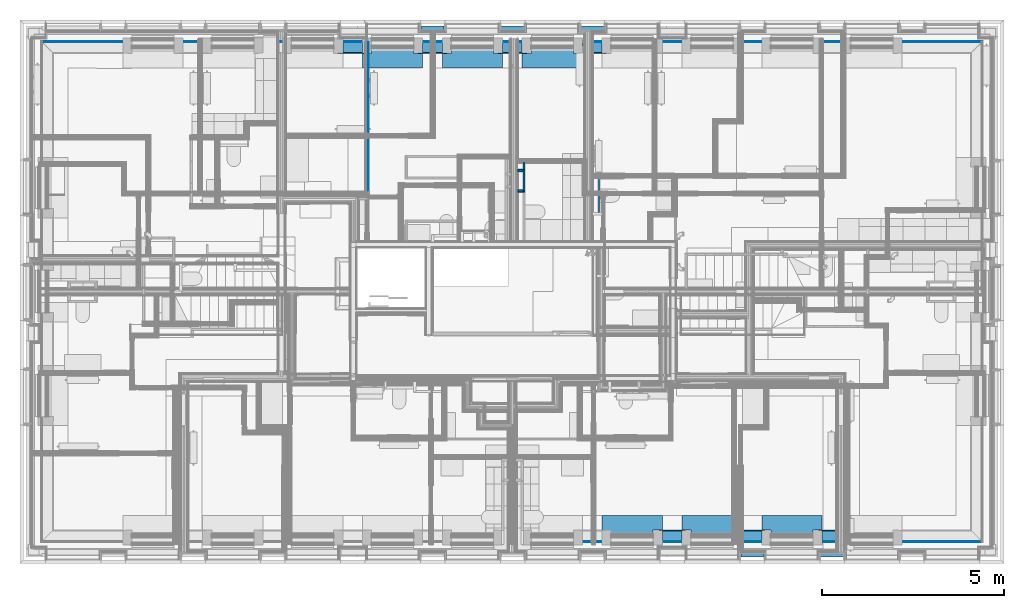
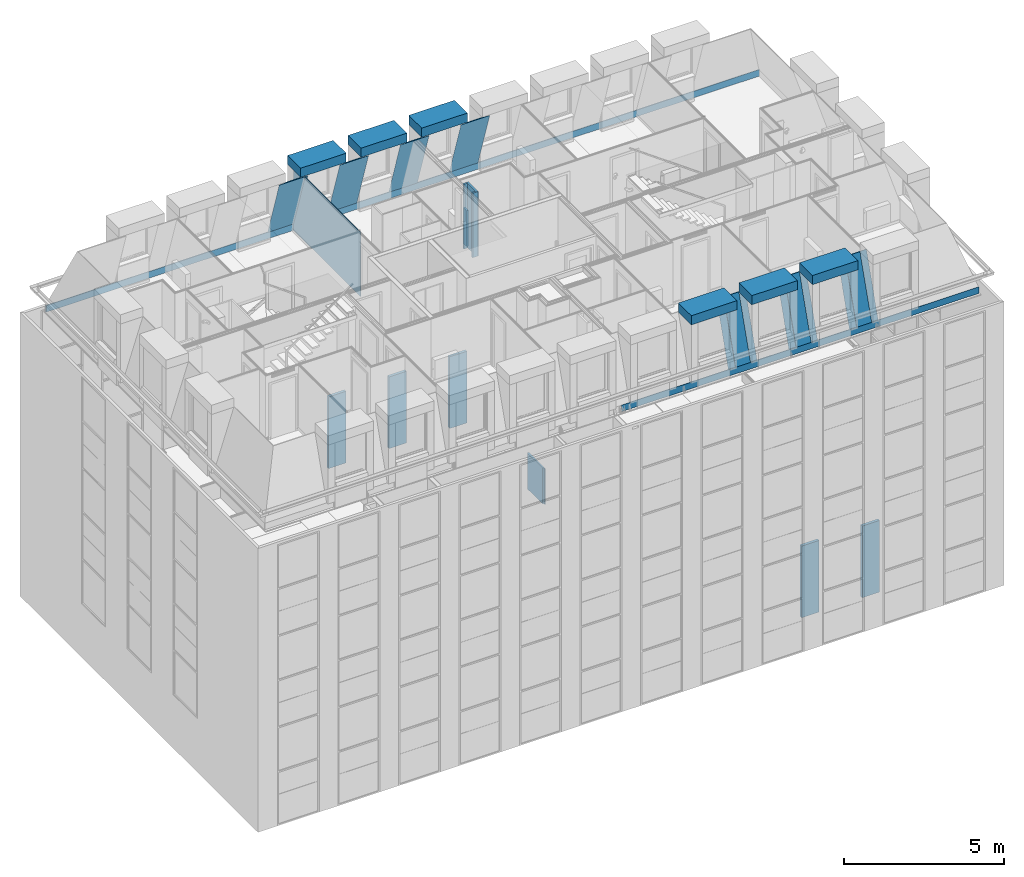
# One storey, part 5 of 169: 34 walls.
"""IFC2X3 building model written with IfcOpenShell, lengths in metres."""

from ifc_helpers import new_model, entity, si_unit, converted_unit, derived_unit, money_unit, direction, frame, frame_2d, origin_with_axes, place, context, subcontext, project, spatial, polyline, rectangle, outline, extrude, material, layer, layer_set, layer_usage, type_object, element, save


model = new_model("IFC2X3")

# Units and contexts
model_context = context("Model", 3, precision=1e-05, world=origin_with_axes(), true_north=direction((0.0, 1.0)))
body_context = subcontext(model_context, "Body", "Model", "MODEL_VIEW", scale=1.0)
ifc_project = project(units=[si_unit("LENGTHUNIT", "METRE"), si_unit("AREAUNIT", "SQUARE_METRE"), si_unit("VOLUMEUNIT", "CUBIC_METRE"), si_unit("ABSORBEDDOSEUNIT", "GRAY"), si_unit("AMOUNTOFSUBSTANCEUNIT", "MOLE"), si_unit("DOSEEQUIVALENTUNIT", "SIEVERT"), si_unit("ELECTRICCAPACITANCEUNIT", "FARAD"), si_unit("ELECTRICCHARGEUNIT", "COULOMB"), si_unit("ELECTRICCONDUCTANCEUNIT", "SIEMENS"), si_unit("ELECTRICCURRENTUNIT", "AMPERE"), si_unit("ELECTRICRESISTANCEUNIT", "OHM"), si_unit("ELECTRICVOLTAGEUNIT", "VOLT"), si_unit("ENERGYUNIT", "JOULE"), si_unit("FORCEUNIT", "NEWTON"), si_unit("FREQUENCYUNIT", "HERTZ"), si_unit("ILLUMINANCEUNIT", "LUX"), si_unit("INDUCTANCEUNIT", "HENRY"), si_unit("LUMINOUSFLUXUNIT", "LUMEN"), si_unit("LUMINOUSINTENSITYUNIT", "CANDELA"), si_unit("MAGNETICFLUXDENSITYUNIT", "TESLA"), si_unit("MAGNETICFLUXUNIT", "WEBER"), si_unit("MASSUNIT", "GRAM"), converted_unit("PLANEANGLEUNIT", "degree", entity("IfcReal", 0.0174532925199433), si_unit("PLANEANGLEUNIT", "RADIAN"), dimensions=[0, 0, 0, 0, 0, 0, 0]), si_unit("POWERUNIT", "WATT"), si_unit("PRESSUREUNIT", "PASCAL"), si_unit("RADIOACTIVITYUNIT", "BECQUEREL"), si_unit("SOLIDANGLEUNIT", "STERADIAN"), si_unit("THERMODYNAMICTEMPERATUREUNIT", "KELVIN"), si_unit("TIMEUNIT", "SECOND"), derived_unit("ACCELERATIONUNIT", [(si_unit("LENGTHUNIT", "METRE"), 1), (si_unit("TIMEUNIT", "SECOND"), -2)]), derived_unit("ANGULARVELOCITYUNIT", [(converted_unit("PLANEANGLEUNIT", "degree", entity("IfcReal", 0.0174532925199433), si_unit("PLANEANGLEUNIT", "RADIAN"), dimensions=[0, 0, 0, 0, 0, 0, 0]), 1), (si_unit("TIMEUNIT", "SECOND"), -1)]), derived_unit("CURVATUREUNIT", [(converted_unit("PLANEANGLEUNIT", "degree", entity("IfcReal", 0.0174532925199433), si_unit("PLANEANGLEUNIT", "RADIAN"), dimensions=[0, 0, 0, 0, 0, 0, 0]), 1), (si_unit("LENGTHUNIT", "METRE"), -1)]), derived_unit("DYNAMICVISCOSITYUNIT", [(si_unit("PRESSUREUNIT", "PASCAL"), 1), (si_unit("TIMEUNIT", "SECOND"), 1)]), derived_unit("HEATFLUXDENSITYUNIT", [(si_unit("POWERUNIT", "WATT"), 1), (si_unit("LENGTHUNIT", "METRE"), -2)]), derived_unit("HEATINGVALUEUNIT", [(si_unit("ENERGYUNIT", "JOULE"), 1), (si_unit("MASSUNIT", "GRAM"), -1)]), derived_unit("INTEGERCOUNTRATEUNIT", [(si_unit("TIMEUNIT", "SECOND"), -1)]), derived_unit("IONCONCENTRATIONUNIT", [(si_unit("MASSUNIT", "GRAM"), 1), (si_unit("VOLUMEUNIT", "CUBIC_METRE"), -1)]), derived_unit("ISOTHERMALMOISTURECAPACITYUNIT", [(si_unit("VOLUMEUNIT", "CUBIC_METRE"), 1), (si_unit("MASSUNIT", "GRAM"), -1)]), derived_unit("KINEMATICVISCOSITYUNIT", [(si_unit("AREAUNIT", "SQUARE_METRE"), 1), (si_unit("TIMEUNIT", "SECOND"), -1)]), derived_unit("LINEARFORCEUNIT", [(si_unit("FORCEUNIT", "NEWTON"), 1), (si_unit("LENGTHUNIT", "METRE"), -1)]), derived_unit("LINEARMOMENTUNIT", [(si_unit("FORCEUNIT", "NEWTON"), 1), (si_unit("LENGTHUNIT", "METRE"), -1)]), derived_unit("LINEARSTIFFNESSUNIT", [(si_unit("FORCEUNIT", "NEWTON"), 1), (si_unit("LENGTHUNIT", "METRE"), -1)]), derived_unit("LINEARVELOCITYUNIT", [(si_unit("LENGTHUNIT", "METRE"), 1), (si_unit("TIMEUNIT", "SECOND"), -1)]), derived_unit("LUMINOUSINTENSITYDISTRIBUTIONUNIT", [(si_unit("LUMINOUSINTENSITYUNIT", "CANDELA"), 1), (si_unit("LUMINOUSFLUXUNIT", "LUMEN"), -1)]), derived_unit("MASSDENSITYUNIT", [(si_unit("MASSUNIT", "GRAM"), 1), (si_unit("VOLUMEUNIT", "CUBIC_METRE"), -1)]), derived_unit("MASSFLOWRATEUNIT", [(si_unit("MASSUNIT", "GRAM"), 1), (si_unit("TIMEUNIT", "SECOND"), -1)]), derived_unit("MASSPERLENGTHUNIT", [(si_unit("MASSUNIT", "GRAM"), 1), (si_unit("LENGTHUNIT", "METRE"), -1)]), derived_unit("MODULUSOFELASTICITYUNIT", [(si_unit("FORCEUNIT", "NEWTON"), 1), (si_unit("AREAUNIT", "SQUARE_METRE"), -1)]), derived_unit("MODULUSOFLINEARSUBGRADEREACTIONUNIT", [(si_unit("FORCEUNIT", "NEWTON"), 1), (si_unit("LENGTHUNIT", "METRE"), -2)]), derived_unit("MODULUSOFROTATIONALSUBGRADEREACTIONUNIT", [(si_unit("FORCEUNIT", "NEWTON"), 1), (si_unit("LENGTHUNIT", "METRE"), 1)]), derived_unit("MODULUSOFSUBGRADEREACTIONUNIT", [(si_unit("FORCEUNIT", "NEWTON"), 1), (si_unit("VOLUMEUNIT", "CUBIC_METRE"), -1)]), derived_unit("MOISTUREDIFFUSIVITYUNIT", [(si_unit("VOLUMEUNIT", "CUBIC_METRE"), 1), (si_unit("TIMEUNIT", "SECOND"), -1)]), derived_unit("MOLECULARWEIGHTUNIT", [(si_unit("MASSUNIT", "GRAM"), 1), (si_unit("AMOUNTOFSUBSTANCEUNIT", "MOLE"), -1)]), derived_unit("PLANARFORCEUNIT", [(si_unit("FORCEUNIT", "NEWTON"), 1), (si_unit("LENGTHUNIT", "METRE"), -2)]), derived_unit("ROTATIONALFREQUENCYUNIT", [(si_unit("TIMEUNIT", "SECOND"), -1)]), derived_unit("ROTATIONALMASSUNIT", [(si_unit("MASSUNIT", "GRAM"), 1), (si_unit("LENGTHUNIT", "METRE"), 2)]), derived_unit("ROTATIONALSTIFFNESSUNIT", [(si_unit("FORCEUNIT", "NEWTON"), 1), (si_unit("LENGTHUNIT", "METRE"), 1), (converted_unit("PLANEANGLEUNIT", "degree", entity("IfcReal", 0.0174532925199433), si_unit("PLANEANGLEUNIT", "RADIAN"), dimensions=[0, 0, 0, 0, 0, 0, 0]), -1)]), derived_unit("SECTIONAREAINTEGRALUNIT", [(si_unit("LENGTHUNIT", "METRE"), 5)]), derived_unit("SECTIONMODULUSUNIT", [(si_unit("LENGTHUNIT", "METRE"), 3)]), derived_unit("SHEARMODULUSUNIT", [(si_unit("FORCEUNIT", "NEWTON"), 1), (si_unit("AREAUNIT", "SQUARE_METRE"), -1)]), derived_unit("SOUNDPOWERUNIT", [(si_unit("ENERGYUNIT", "JOULE"), 1), (si_unit("TIMEUNIT", "SECOND"), -1)]), derived_unit("SPECIFICHEATCAPACITYUNIT", [(si_unit("FORCEUNIT", "NEWTON"), 1), (si_unit("MASSUNIT", "GRAM"), -1), (si_unit("THERMODYNAMICTEMPERATUREUNIT", "KELVIN"), -1)]), derived_unit("TEMPERATUREGRADIENTUNIT", [(si_unit("THERMODYNAMICTEMPERATUREUNIT", "KELVIN"), 1), (si_unit("LENGTHUNIT", "METRE"), -1)]), derived_unit("THERMALADMITTANCEUNIT", [(si_unit("POWERUNIT", "WATT"), 1), (si_unit("AREAUNIT", "SQUARE_METRE"), -1), (si_unit("THERMODYNAMICTEMPERATUREUNIT", "KELVIN"), -1)]), derived_unit("THERMALCONDUCTANCEUNIT", [(si_unit("POWERUNIT", "WATT"), 1), (si_unit("LENGTHUNIT", "METRE"), -1), (si_unit("THERMODYNAMICTEMPERATUREUNIT", "KELVIN"), -1)]), derived_unit("THERMALEXPANSIONCOEFFICIENTUNIT", [(si_unit("THERMODYNAMICTEMPERATUREUNIT", "KELVIN"), -1)]), derived_unit("THERMALRESISTANCEUNIT", [(si_unit("AREAUNIT", "SQUARE_METRE"), 1), (si_unit("POWERUNIT", "WATT"), -1)]), derived_unit("THERMALTRANSMITTANCEUNIT", [(si_unit("POWERUNIT", "WATT"), 1), (si_unit("AREAUNIT", "SQUARE_METRE"), -1), (si_unit("THERMODYNAMICTEMPERATUREUNIT", "KELVIN"), -1)]), derived_unit("TORQUEUNIT", [(si_unit("FORCEUNIT", "NEWTON"), 1), (si_unit("LENGTHUNIT", "METRE"), 1)]), derived_unit("VAPORPERMEABILITYUNIT", [(si_unit("MASSUNIT", "GRAM"), 1), (si_unit("TIMEUNIT", "SECOND"), -1)]), derived_unit("VOLUMETRICFLOWRATEUNIT", [(si_unit("VOLUMEUNIT", "CUBIC_METRE"), 1), (si_unit("TIMEUNIT", "SECOND"), -1)]), derived_unit("WARPINGCONSTANTUNIT", [(si_unit("LENGTHUNIT", "METRE"), 6)]), derived_unit("WARPINGMOMENTUNIT", [(si_unit("FORCEUNIT", "NEWTON"), 1), (si_unit("LENGTHUNIT", "METRE"), 2)]), money_unit("GBP")], contexts=[model_context])

# Site, building, storey
site_placement = place(None, origin_with_axes())
site = spatial("IfcSite", under=ifc_project, at=site_placement, Name="Site", CompositionType="ELEMENT")
building_placement = place(site_placement, origin_with_axes())
building = spatial("IfcBuilding", under=site, at=building_placement, Name="Building01", CompositionType="ELEMENT")
storey_placement = place(building_placement, frame((0.0, 0.0, 5.15), z_axis=(0.0, 0.0, 1.0), x_axis=(1.0, 0.0, 0.0)))
storey = spatial("IfcBuildingStorey", under=building, at=storey_placement, Name="1F", CompositionType="ELEMENT", Elevation=5.15)

# Walls
ifc_material_1 = material(Name="A_BSUK_WallsExternal_Block")
ifc_layer_1 = layer(ifc_material_1, 0.1, ventilated=False)
ifc_layer_set_1 = layer_set([ifc_layer_1])
ifc_layer_usage_1 = layer_usage(ifc_layer_set_1, "AXIS2", "POSITIVE", 0.0)
wall_type_1 = type_object("IfcWallType", Name="A-Walls-ExternalBlock", PredefinedType="NOTDEFINED")
for number, where, z_axis, x_axis, name in (
    (1, (20.387, 0.27, 0.0), (0.0, 0.0, 1.0), (-1.0, 0.0, 0.0), "A-Walls-ExternalBlock"),
    (2, (22.577, 0.27, 0.0), (0.0, 0.0, 1.0), (-1.0, 0.0, 0.0), "A-Walls-ExternalBlock"),
    (3, (11.003, 14.63, 0.0), (0.0, 0.0, 1.0), (1.0, 0.0, 0.0), "A-Walls-ExternalBlock"),
    (4, (13.193, 14.63, 0.0), (0.0, 0.0, 1.0), (1.0, 0.0, 0.0), "A-Walls-ExternalBlock"),
):
    element("IfcWallStandardCase", number, at=place(storey_placement, frame(where, z_axis=z_axis, x_axis=x_axis)), inside=storey, type_object=wall_type_1, material=ifc_layer_usage_1, Name=name, ObjectType="A-Walls-ExternalBlock", context=body_context, shape_type="SweptSolid", body=[
        extrude(rectangle(XDim=0.624, YDim=0.1, at=frame_2d((0.312, 0.05), x_axis=(-1.0, 0.0))), origin_with_axes(), (0.0, 0.0, 1.0), 2.74),
    ])
wall_1_placement = place(storey_placement, frame((15.383, 14.63, 0.0), z_axis=(0.0, 0.0, 1.0), x_axis=(1.0, 0.0, 0.0)))
element("IfcWallStandardCase", 5, at=wall_1_placement, inside=storey, type_object=wall_type_1, material=ifc_layer_usage_1, Name="A-Walls-ExternalBlock", ObjectType="A-Walls-ExternalBlock", context=body_context, shape_type="SweptSolid", body=[
    extrude(rectangle(XDim=0.624, YDim=0.1, at=frame_2d((0.312, 0.05), x_axis=(1.0, 0.0))), origin_with_axes(), (0.0, 0.0, 1.0), 2.74),
])
ifc_material_2 = material(Name="A_BSUK_WallsInternal")
ifc_layer_2 = layer(ifc_material_2, 0.025, ventilated=False)
ifc_layer_set_2 = layer_set([ifc_layer_2])
ifc_layer_usage_2 = layer_usage(ifc_layer_set_2, "AXIS2", "POSITIVE", 0.0)
wall_type_2 = type_object("IfcWallType", Name="A-Walls-Internal", PredefinedType="NOTDEFINED")
wall_2_placement = place(storey_placement, frame((26.4012, 0.5788, 9.83), z_axis=(0.0, 0.0, 1.0), x_axis=(-1.0, 0.0, 0.0)))
element("IfcWallStandardCase", 6, at=wall_2_placement, inside=storey, type_object=wall_type_2, material=ifc_layer_usage_2, Name="7C", ObjectType="A-Walls-Internal", context=body_context, shape_type="SweptSolid", body=[
    extrude(outline(polyline([(0.0, 0.0), (0.025, -0.025), (12.9112, -0.025), (12.9112, 0.0), (0.0, 0.0)])), origin_with_axes(), (0.0, 0.0, 1.0), 0.25),
])
ifc_layer_3 = layer(ifc_material_2, 0.015, ventilated=False)
ifc_layer_set_3 = layer_set([ifc_layer_3])
ifc_layer_usage_3 = layer_usage(ifc_layer_set_3, "AXIS2", "POSITIVE", 0.0)
wall_3_placement = place(storey_placement, frame((0.5938, 14.3212, 9.83), z_axis=(0.0, 0.0, 1.0), x_axis=(1.0, 0.0, 0.0)))
element("IfcWallStandardCase", 7, at=wall_3_placement, inside=storey, type_object=wall_type_2, material=ifc_layer_usage_3, Name="7C", ObjectType="A-Walls-Internal", context=body_context, shape_type="SweptSolid", body=[
    extrude(rectangle(XDim=25.8074, YDim=0.015, at=frame_2d((12.9037, -0.0075), x_axis=(-1.0, 0.0))), origin_with_axes(), (0.0, 0.0, 1.0), 0.25),
])
wall_4_placement = place(storey_placement, frame((0.6088, 14.3062, 9.83), z_axis=(0.0, 0.0, 1.0), x_axis=(1.0, 0.0, 0.0)))
element("IfcWallStandardCase", 8, at=wall_4_placement, inside=storey, type_object=wall_type_2, material=ifc_layer_usage_3, Name="7C", ObjectType="A-Walls-Internal", context=body_context, shape_type="SweptSolid", body=[
    extrude(rectangle(XDim=25.7774, YDim=0.015, at=frame_2d((12.8887, -0.0075), x_axis=(-1.0, 0.0))), origin_with_axes(), (0.0, 0.0, 1.0), 0.25),
])
ifc_material_3 = material(Name="A_BSUK_Walls_Timber")
ifc_layer_4 = layer(ifc_material_3, 0.015, ventilated=False)
ifc_material_4 = material(Name="A_BSUK_OpeningsClearance")
ifc_layer_5 = layer(ifc_material_4, 0.05, ventilated=False)
ifc_layer_set_4 = layer_set([ifc_layer_4, ifc_layer_5])
ifc_layer_usage_4 = layer_usage(ifc_layer_set_4, "AXIS2", "POSITIVE", 0.0)
wall_type_3 = type_object("IfcWallType", Name="SHE_A-Walls_Type05c_PreWallShell_65mm", PredefinedType="NOTDEFINED")
wall_5_placement = place(storey_placement, frame((15.843132, 9.605, 0.0), z_axis=(0.0, 0.0, 1.0), x_axis=(0.0, 1.0, 0.0)))
element("IfcWallStandardCase", 9, at=wall_5_placement, inside=storey, type_object=wall_type_3, material=ifc_layer_usage_4, Name="5C", ObjectType="SHE_A-Walls_Type05c_PreWallShell_65mm", context=body_context, shape_type="SweptSolid", body=[
    extrude(outline(polyline([(0.95, -0.05), (0.965, -0.05), (0.965, 0.0), (0.0, 0.0), (0.0, -0.05), (-0.05, -0.05), (-0.05, -0.065), (0.95, -0.065), (0.95, -0.05)])), origin_with_axes(), (0.0, 0.0, 1.0), 1.375),
])
ifc_layer_set_5 = layer_set([ifc_layer_5, ifc_layer_4])
ifc_layer_usage_5 = layer_usage(ifc_layer_set_5, "AXIS2", "POSITIVE", 0.0)
wall_6_placement = place(storey_placement, frame((13.784998, 10.788883, 9.83), z_axis=(0.0, 0.0, 1.0), x_axis=(0.0, -1.0, 0.0)))
element("IfcWallStandardCase", 10, at=wall_6_placement, inside=storey, type_object=wall_type_3, material=ifc_layer_usage_5, Name="5C", ObjectType="SHE_A-Walls_Type05c_PreWallShell_65mm", context=body_context, shape_type="SweptSolid", body=[
    extrude(outline(polyline([(0.590094, 0.05), (0.605094, 0.05), (0.605094, 0.065), (-0.015, 0.065), (-0.015, 0.05), (0.0, 0.05), (0.0, 0.0), (0.590094, 0.0), (0.590094, 0.05)])), origin_with_axes(), (0.0, 0.0, 1.0), 2.468),
])
wall_7_placement = place(storey_placement, frame((13.65, 10.738883, 9.83), z_axis=(0.0, 0.0, 1.0), x_axis=(1.0, 0.0, 0.0)))
element("IfcWallStandardCase", 11, at=wall_7_placement, inside=storey, type_object=wall_type_3, material=ifc_layer_usage_5, Name="5C", ObjectType="SHE_A-Walls_Type05c_PreWallShell_65mm", context=body_context, shape_type="SweptSolid", body=[
    extrude(outline(polyline([(0.134998, 0.05), (0.184998, 0.05), (0.184998, 0.065), (0.0, 0.065), (0.0, 0.0), (0.134998, 0.0), (0.134998, 0.05)])), origin_with_axes(), (0.0, 0.0, 1.0), 2.468),
])
wall_8_placement = place(storey_placement, frame((13.65, 10.248789, 9.83), z_axis=(0.0, 0.0, 1.0), x_axis=(1.0, 0.0, 0.0)))
element("IfcWallStandardCase", 12, at=wall_8_placement, inside=storey, type_object=wall_type_3, material=ifc_layer_usage_4, Name="5C", ObjectType="SHE_A-Walls_Type05c_PreWallShell_65mm", context=body_context, shape_type="SweptSolid", body=[
    extrude(outline(polyline([(0.134998, -0.05), (0.134998, 0.0), (0.0, 0.0), (0.0, -0.065), (0.184998, -0.065), (0.184998, -0.05), (0.134998, -0.05)])), origin_with_axes(), (0.0, 0.0, 1.0), 2.468),
])
wall_9_placement = place(storey_placement, frame((13.784998, 10.803883, 9.83), z_axis=(0.0, 0.0, 1.0), x_axis=(0.0, 1.0, 0.0)))
element("IfcWallStandardCase", 13, at=wall_9_placement, inside=storey, type_object=wall_type_3, material=ifc_layer_usage_4, Name="5C", ObjectType="SHE_A-Walls_Type05c_PreWallShell_65mm", context=body_context, shape_type="SweptSolid", body=[
    extrude(outline(polyline([(0.179906, -0.05), (0.207906, -0.05), (0.207906, 0.0), (0.0, 0.0), (0.0, -0.065), (0.179906, -0.065), (0.179906, -0.05)])), origin_with_axes(), (0.0, 0.0, 1.0), 1.375),
])
ifc_material_5 = material(Name="A_BSUK_WallInternal_Finishes_Plasterboard")
ifc_layer_6 = layer(ifc_material_5, 0.015, ventilated=False)
ifc_layer_set_6 = layer_set([ifc_layer_6])
ifc_layer_usage_6 = layer_usage(ifc_layer_set_6, "AXIS2", "POSITIVE", 0.0)
wall_type_4 = type_object("IfcWallType", Name="default", PredefinedType="NOTDEFINED")
wall_10_placement = place(storey_placement, frame((9.545024, 10.114939, 9.83), z_axis=(0.0, 0.0, 1.0), x_axis=(0.0, 1.0, 0.0)))
element("IfcWallStandardCase", 14, at=wall_10_placement, inside=storey, type_object=wall_type_4, material=ifc_layer_usage_6, Name="default", ObjectType="default", context=body_context, shape_type="SweptSolid", body=[
    extrude(outline(polyline([(4.181261, 0.0), (0.0, 0.0), (-0.015, -0.015), (4.181261, -0.015), (4.181261, 0.0)])), origin_with_axes(), (0.0, 0.0, 1.0), 2.468),
])
ifc_material_6 = material(Name="A_BSUK_Roofs")
wall_type_5 = type_object("IfcWallType", Name="A-Walls-ExternalBlock", PredefinedType="NOTDEFINED")
for number, where, z_axis, x_axis, name in (
    (15, (20.340024, 1.31, 12.679998), (1.0, 0.0, 0.0), (0.0, -1.0, 0.0), "7C"),
    (16, (18.150024, 1.31, 12.679998), (1.0, 0.0, 0.0), (0.0, -1.0, 0.0), "7C"),
    (17, (15.960024, 1.31, 12.679998), (1.0, 0.0, 0.0), (0.0, -1.0, 0.0), "7C"),
):
    element("IfcWall", number, at=place(storey_placement, frame(where, z_axis=z_axis, x_axis=x_axis)), inside=storey, type_object=wall_type_5, material=ifc_material_6, Name=name, ObjectType="A-Walls-ExternalBlock", context=body_context, shape_type="SweptSolid", body=[
        extrude(rectangle(XDim=0.81, YDim=0.349998, at=frame_2d((0.405, 0.174999), x_axis=(1.0, 0.0))), origin_with_axes(), (0.0, 0.0, 1.0), 1.649951),
    ])
for number, where, z_axis, x_axis, name in (
    (18, (9.390024, 14.400096, 12.679999), (1.0, 0.0, 0.0), (0.0, -1.0, 0.0), "7C"),
    (19, (11.580024, 14.400096, 12.679999), (1.0, 0.0, 0.0), (0.0, -1.0, 0.0), "7C"),
):
    element("IfcWall", number, at=place(storey_placement, frame(where, z_axis=z_axis, x_axis=x_axis)), inside=storey, type_object=wall_type_5, material=ifc_material_6, Name=name, ObjectType="A-Walls-ExternalBlock", context=body_context, shape_type="SweptSolid", body=[
        extrude(rectangle(XDim=0.81, YDim=0.349999, at=frame_2d((0.405, 0.174999), x_axis=(1.0, 0.0))), origin_with_axes(), (0.0, 0.0, 1.0), 1.65),
    ])
wall_11_placement = place(storey_placement, frame((13.770024, 14.400096, 12.679999), z_axis=(1.0, 0.0, 0.0), x_axis=(0.0, -1.0, 0.0)))
element("IfcWall", 20, at=wall_11_placement, inside=storey, type_object=wall_type_5, material=ifc_material_6, Name="7C", ObjectType="A-Walls-ExternalBlock", context=body_context, shape_type="SweptSolid", body=[
    extrude(rectangle(XDim=0.81, YDim=0.349999, at=frame_2d((0.405, 0.174999), x_axis=(1.0, 0.0))), origin_with_axes(), (0.0, 0.0, 1.0), 1.649951),
])
wall_type_6 = type_object("IfcWallType", Name="A-Walls-Internal", PredefinedType="NOTDEFINED")
for number, where, z_axis, x_axis, name in (
    (21, (17.609976, 0.5788, 10.08), (0.0, 0.30901699, 0.95105652), (1.0, 0.0, 0.0), "7C"),
    (22, (19.799976, 0.5788, 10.08), (0.0, 0.30901699, 0.95105652), (1.0, 0.0, 0.0), "7C"),
    (23, (21.989976, 0.5788, 10.08), (0.0, 0.30901699, 0.95105652), (1.0, 0.0, 0.0), "7C"),
):
    element("IfcWall", number, at=place(storey_placement, frame(where, z_axis=z_axis, x_axis=x_axis)), inside=storey, type_object=wall_type_6, material=ifc_material_2, Name=name, ObjectType="A-Walls-Internal", context=body_context, shape_type="SweptSolid", body=[
        extrude(rectangle(XDim=0.540049, YDim=0.015, at=frame_2d((0.270024, 0.0075), x_axis=(-1.0, 0.0))), origin_with_axes(), (0.0, 0.0, 1.0), 2.373987),
    ])
for number, where, z_axis, x_axis, name in (
    (24, (8.849976, 14.3212, 10.08), (0.0, -0.30901699, 0.95105652), (1.0, 0.0, 0.0), "7C"),
    (25, (11.039976, 14.3212, 10.08), (0.0, -0.30901699, 0.95105652), (1.0, 0.0, 0.0), "7C"),
    (26, (13.229976, 14.3212, 10.08), (0.0, -0.30901699, 0.95105652), (1.0, 0.0, 0.0), "7C"),
    (27, (15.419976, 14.3212, 10.08), (0.0, -0.30901699, 0.95105652), (1.0, 0.0, 0.0), "7C"),
):
    element("IfcWall", number, at=place(storey_placement, frame(where, z_axis=z_axis, x_axis=x_axis)), inside=storey, type_object=wall_type_6, material=ifc_material_2, Name=name, ObjectType="A-Walls-Internal", context=body_context, shape_type="SweptSolid", body=[
        extrude(rectangle(XDim=0.540049, YDim=0.015, at=frame_2d((0.270024, -0.0075), x_axis=(-1.0, 0.0))), origin_with_axes(), (0.0, 0.0, 1.0), 2.373987),
    ])
for number, where, z_axis, x_axis, name in (
    (28, (8.849976, 14.305572, 10.079557), (0.0, -0.30901699, 0.95105652), (1.0, 0.0, 0.0), "7C"),
    (29, (11.039976, 14.305572, 10.079557), (0.0, -0.30901699, 0.95105652), (1.0, 0.0, 0.0), "7C"),
    (30, (13.229976, 14.305572, 10.079557), (0.0, -0.30901699, 0.95105652), (1.0, 0.0, 0.0), "7C"),
    (31, (15.419976, 14.305572, 10.079557), (0.0, -0.30901699, 0.95105652), (1.0, 0.0, 0.0), "7C"),
):
    element("IfcWall", number, at=place(storey_placement, frame(where, z_axis=z_axis, x_axis=x_axis)), inside=storey, type_object=wall_type_6, material=ifc_material_2, Name=name, ObjectType="A-Walls-Internal", context=body_context, shape_type="SweptSolid", body=[
        extrude(outline(polyline([(0.540049, 0.0), (0.0, 0.0), (-0.25, -0.015), (0.790049, -0.015), (0.540049, 0.0)])), origin_with_axes(), (0.0, 0.0, 1.0), 2.373987),
    ])
for number, where, z_axis, x_axis, name in (
    (32, (21.989976, 0.594428, 10.079557), (0.0, 0.30901699, 0.95105652), (1.0, 0.0, 0.0), "7C"),
    (33, (19.799976, 0.594428, 10.079557), (0.0, 0.30901699, 0.95105652), (1.0, 0.0, 0.0), "7C"),
    (34, (17.609976, 0.594428, 10.079557), (0.0, 0.30901699, 0.95105652), (1.0, 0.0, 0.0), "7C"),
):
    element("IfcWall", number, at=place(storey_placement, frame(where, z_axis=z_axis, x_axis=x_axis)), inside=storey, type_object=wall_type_6, material=ifc_material_2, Name=name, ObjectType="A-Walls-Internal", context=body_context, shape_type="SweptSolid", body=[
        extrude(outline(polyline([(0.790049, 0.015), (-0.25, 0.015), (0.0, 0.0), (0.540049, 0.0), (0.790049, 0.015)])), origin_with_axes(), (0.0, 0.0, 1.0), 2.373987),
    ])

save(model, "model.ifc")
